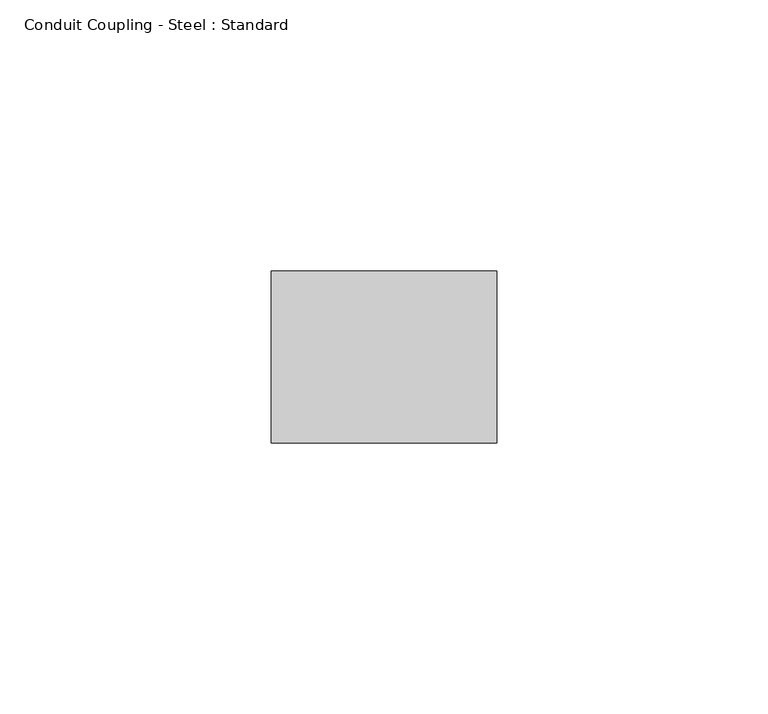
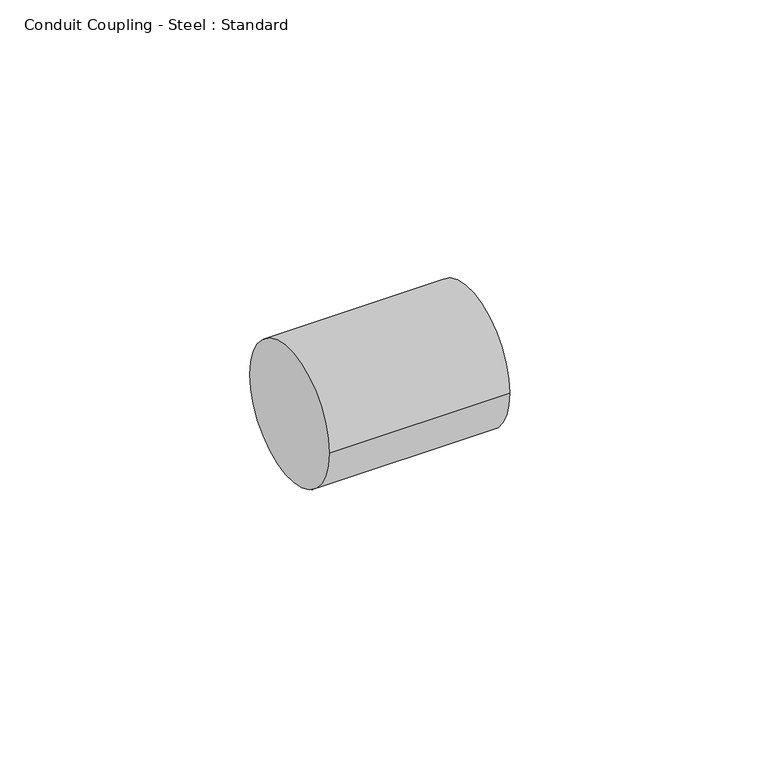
"""IFC4 building model written with IfcOpenShell, lengths in millimetres: cable carrier fitting geometry, Conduit Coupling - Steel : Standard."""

import ifcopenshell
import ifcopenshell.guid

model = None  # the IFC model being written
_history = None  # IfcOwnerHistory: only IFC2X3 demands one
_inside = {}  # id of a spatial element -> (the spatial element, [elements in it])
_under = {}  # id of a project, library or spatial element -> (it, [spatial elements below it])
_declared = {}  # id of a project -> (the project, [libraries it declares])
_typed = {}  # id of a type object -> (the type object, [elements of that type])
_made_of = {}  # id of a material, layer set ... -> (it, [elements and type objects made of it])


def new_model(schema):
    """Start an empty IFC model of exactly this schema.

    Asked for "IFC4X3", IfcOpenShell would pick the latest addendum, in which some entities
    have other attributes; the version numbers below select the first issue.
    IFC2X3 requires an IfcOwnerHistory on every rooted entity: one is made here for all.
    """
    global model, _history
    if schema == "IFC4X3":
        model = ifcopenshell.file(schema_version=(4, 3, 0, 0))
    else:
        model = ifcopenshell.file(schema=schema)
    _inside.clear()
    _under.clear()
    _declared.clear()
    _typed.clear()
    _made_of.clear()
    _history = None
    if model.schema == "IFC2X3":
        org = make("IfcOrganization", Name="unknown")
        user = make(
            "IfcPersonAndOrganization",
            ThePerson=make("IfcPerson", FamilyName="unknown"),
            TheOrganization=org,
        )
        app = make(
            "IfcApplication",
            ApplicationDeveloper=org,
            Version="unknown",
            ApplicationFullName="unknown",
            ApplicationIdentifier="unknown",
        )
        _history = make(
            "IfcOwnerHistory",
            OwningUser=user,
            OwningApplication=app,
            ChangeAction="ADDED",
            CreationDate=0,
        )
    return model


def make(cls, **values):
    """One entity of the class cls with the attributes given. An attribute that is None is left unset."""
    return model.create_entity(
        cls, **{name: value for name, value in values.items() if value is not None}
    )


def rooted(cls, **values):
    """An entity with a GlobalId (a new one), such as an element, a storey or a relation."""
    return make(cls, GlobalId=ifcopenshell.guid.new(), OwnerHistory=_history, **values)


def si_unit(unit_type, name, prefix=None):
    """IfcSIUnit, for example si_unit("LENGTHUNIT", "METRE", prefix="MILLI")."""
    return make("IfcSIUnit", UnitType=unit_type, Prefix=prefix, Name=name)


def assignment(units):
    """IfcUnitAssignment: the units of a project."""
    return None if units is None else make("IfcUnitAssignment", Units=units)


def point(xyz):
    """IfcCartesianPoint."""
    return None if xyz is None else make("IfcCartesianPoint", Coordinates=xyz)


def direction(xyz):
    """IfcDirection."""
    return None if xyz is None else make("IfcDirection", DirectionRatios=xyz)


def frame(location, z_axis=None, x_axis=None):
    """IfcAxis2Placement3D, a coordinate frame: its origin and axes. An axis left out is left unset."""
    return make(
        "IfcAxis2Placement3D",
        Location=point(location),
        Axis=direction(z_axis),
        RefDirection=direction(x_axis),
    )


def frame_2d(location, x_axis=None):
    """IfcAxis2Placement2D, a coordinate frame in the plane: its origin and x axis."""
    return make(
        "IfcAxis2Placement2D", Location=point(location), RefDirection=direction(x_axis)
    )


def origin():
    """The frame at (0, 0, 0) with its axes left unset."""
    return frame((0.0, 0.0, 0.0))


def origin_2d():
    """The frame at (0, 0) in the plane with its x axis left unset."""
    return frame_2d((0.0, 0.0))


def place(relative_to, where):
    """IfcLocalPlacement: puts the frame where relative to a parent placement (None: the world)."""
    return make(
        "IfcLocalPlacement", PlacementRelTo=relative_to, RelativePlacement=where
    )


def context(
    kind, dimensions, precision=None, world=None, true_north=None, identifier=None
):
    """IfcGeometricRepresentationContext, for example the 3D "Model" context."""
    return make(
        "IfcGeometricRepresentationContext",
        ContextIdentifier=identifier,
        ContextType=kind,
        CoordinateSpaceDimension=dimensions,
        Precision=precision,
        WorldCoordinateSystem=world,
        TrueNorth=true_north,
    )


def project(units=None, contexts=None):
    """IfcProject with its units and contexts."""
    return rooted(
        "IfcProject",
        Name="project",
        RepresentationContexts=contexts,
        UnitsInContext=assignment(units),
    )


def spatial(cls, under=None, at=None, **own):
    """A site, building, storey or space (cls), placed at a placement, below another one or the project."""
    s = rooted(cls, ObjectPlacement=at, **own)
    if under is not None:
        _under.setdefault(under.id(), (under, []))[1].append(s)
    return s


def circle_curve(where, radius):
    """IfcCircle in the frame where."""
    return make("IfcCircle", Position=where, Radius=radius)


def trimmed(basis, trim1, trim2, sense, master):
    """IfcTrimmedCurve: the piece of a basis curve between two trims."""
    return make(
        "IfcTrimmedCurve",
        BasisCurve=basis,
        Trim1=trim1,
        Trim2=trim2,
        SenseAgreement=sense,
        MasterRepresentation=master,
    )


def segment(curve, same_sense, transition):
    """IfcCompositeCurveSegment."""
    return make(
        "IfcCompositeCurveSegment",
        Transition=transition,
        SameSense=same_sense,
        ParentCurve=curve,
    )


def composite_curve(segments, self_intersect=None):
    """IfcCompositeCurve: segments joined end to end."""
    return make("IfcCompositeCurve", Segments=segments, SelfIntersect=self_intersect)


def outline(outer, holes=None, kind="AREA"):
    """IfcArbitraryClosedProfileDef: a profile drawn as a closed curve; with holes, ...WithVoids."""
    if holes is None:
        return make("IfcArbitraryClosedProfileDef", ProfileType=kind, OuterCurve=outer)
    return make(
        "IfcArbitraryProfileDefWithVoids",
        ProfileType=kind,
        OuterCurve=outer,
        InnerCurves=holes,
    )


def extrude(swept, where, along, depth):
    """IfcExtrudedAreaSolid: the profile swept, set in the frame where, extruded along a direction by depth."""
    return make(
        "IfcExtrudedAreaSolid",
        SweptArea=swept,
        Position=where,
        ExtrudedDirection=direction(along),
        Depth=depth,
    )


def shape(context_of_items, identifier, shape_type, items):
    """IfcShapeRepresentation: the items that make up one representation, for example the "Body"."""
    return make(
        "IfcShapeRepresentation",
        ContextOfItems=context_of_items,
        RepresentationIdentifier=identifier,
        RepresentationType=shape_type,
        Items=items,
    )


def source(mapping_origin, context_of_items, identifier, shape_type, items):
    """IfcRepresentationMap: a shape defined once, which mapped items show again and again."""
    return make(
        "IfcRepresentationMap",
        MappingOrigin=mapping_origin,
        MappedRepresentation=shape(context_of_items, identifier, shape_type, items),
    )


def transform(
    local_origin,
    x_axis=None,
    y_axis=None,
    z_axis=None,
    scale=None,
    scale2=None,
    scale3=None,
    uniform=True,
):
    """IfcCartesianTransformationOperator3D, or its non-uniform kind. x_axis, y_axis, z_axis: its Axis1, 2, 3."""
    if uniform:
        return make(
            "IfcCartesianTransformationOperator3D",
            Axis1=direction(x_axis),
            Axis2=direction(y_axis),
            LocalOrigin=point(local_origin),
            Scale=scale,
            Axis3=direction(z_axis),
        )
    return make(
        "IfcCartesianTransformationOperator3DnonUniform",
        Axis1=direction(x_axis),
        Axis2=direction(y_axis),
        LocalOrigin=point(local_origin),
        Scale=scale,
        Axis3=direction(z_axis),
        Scale2=scale2,
        Scale3=scale3,
    )


def mapped(mapping_source, mapping_target):
    """IfcMappedItem: shows the shape of a source again, moved by a transform."""
    return make(
        "IfcMappedItem", MappingSource=mapping_source, MappingTarget=mapping_target
    )


def made_of(thing, what):
    """Note that an element or type object is made of a material, layer set ...; save() writes the relation."""
    if what is not None:
        _made_of.setdefault(what.id(), (what, []))[1].append(thing)
    return thing


def element(
    cls,
    number,
    at=None,
    inside=None,
    cuts=None,
    type_object=None,
    material=None,
    context=None,
    identifier="Body",
    shape_type=None,
    held_by="IfcProductDefinitionShape",
    body=None,
    shapes=None,
    **own,
):
    """One element of the class cls, such as IfcWall. Its Tag is "e" and its number.

    at: its placement. inside: the storey or other place that contains it. cuts: it is an
    opening in that element (IfcRelVoidsElement). A single representation is given by context,
    identifier, shape_type and body (its items); several are given by shapes. held_by: the class
    of the entity that holds the representations. save() writes the other relations.
    """
    e = rooted(cls, Tag="e%d" % number, ObjectPlacement=at, **own)
    if body is not None:
        shapes = [shape(context, identifier, shape_type, body)]
    if shapes is not None:
        e.Representation = make(held_by, Representations=shapes)
    if inside is not None:
        _inside.setdefault(inside.id(), (inside, []))[1].append(e)
    if cuts is not None:
        rooted(
            "IfcRelVoidsElement", RelatingBuildingElement=cuts, RelatedOpeningElement=e
        )
    if type_object is not None:
        _typed.setdefault(type_object.id(), (type_object, []))[1].append(e)
    return made_of(e, material)


def aggregate(whole, parts):
    """IfcRelAggregates: a whole, such as a stair, and the parts it consists of."""
    return rooted("IfcRelAggregates", RelatingObject=whole, RelatedObjects=parts)


def save(model, path):
    """Write the relations noted so far, then the file.

    IfcRelAggregates (storeys below a building ...), IfcRelContainedInSpatialStructure (elements
    in a storey), IfcRelDefinesByType, IfcRelAssociatesMaterial and IfcRelDeclares: one each for
    every whole, place, type object, material and project.
    """
    for whole, parts in _under.values():
        aggregate(whole, parts)
    for where, things in _inside.values():
        rooted(
            "IfcRelContainedInSpatialStructure",
            RelatedElements=things,
            RelatingStructure=where,
        )
    for kind, things in _typed.values():
        rooted("IfcRelDefinesByType", RelatedObjects=things, RelatingType=kind)
    for what, things in _made_of.values():
        rooted("IfcRelAssociatesMaterial", RelatedObjects=things, RelatingMaterial=what)
    for by, libraries in _declared.values():
        rooted("IfcRelDeclares", RelatingContext=by, RelatedDefinitions=libraries)
    model.write(path)


def conduit_coupling_steel_standard_d2319679(model_context):
    return source(origin(), model_context, "Body", "SweptSolid", [
        extrude(outline(composite_curve([segment(trimmed(circle_curve(origin_2d(), 15.875), [point((-15.875, 0.0))], [point((15.875, 0.0))], False, "CARTESIAN"), True, "CONTINUOUS"), segment(trimmed(circle_curve(origin_2d(), 15.875), [point((15.875, 0.0))], [point((-15.875, 0.0))], False, "CARTESIAN"), True, "CONTINUOUS")], self_intersect=False)), frame((0.0, 0.0, 0.0), z_axis=(1.0, 0.0, 0.0), x_axis=(0.0, 1.0, 0.0)), (0.0, 0.0, 1.0), 41.6814),
    ])


if __name__ == "__main__":
    model = new_model("IFC4")
    model_context = context("Model", 3, world=origin())
    ifc_project = project(units=[si_unit("LENGTHUNIT", "METRE", prefix="MILLI")], contexts=[model_context])
    site = spatial("IfcSite", under=ifc_project)
    building = spatial("IfcBuilding", under=site)
    placement = place(None, origin())
    conduit_coupling_steel_standard_shape = conduit_coupling_steel_standard_d2319679(model_context)
    element("IfcCableCarrierFitting", 1, ObjectType="Conduit Coupling - Steel : Standard", at=placement, inside=building, context=model_context, shape_type="MappedRepresentation", body=[
        mapped(conduit_coupling_steel_standard_shape, transform((0.0, 0.0, 0.0), x_axis=(1.0, 0.0, 0.0), y_axis=(0.0, 1.0, 0.0), z_axis=(0.0, 0.0, 1.0))),
    ])
    save(model, "model.ifc")
